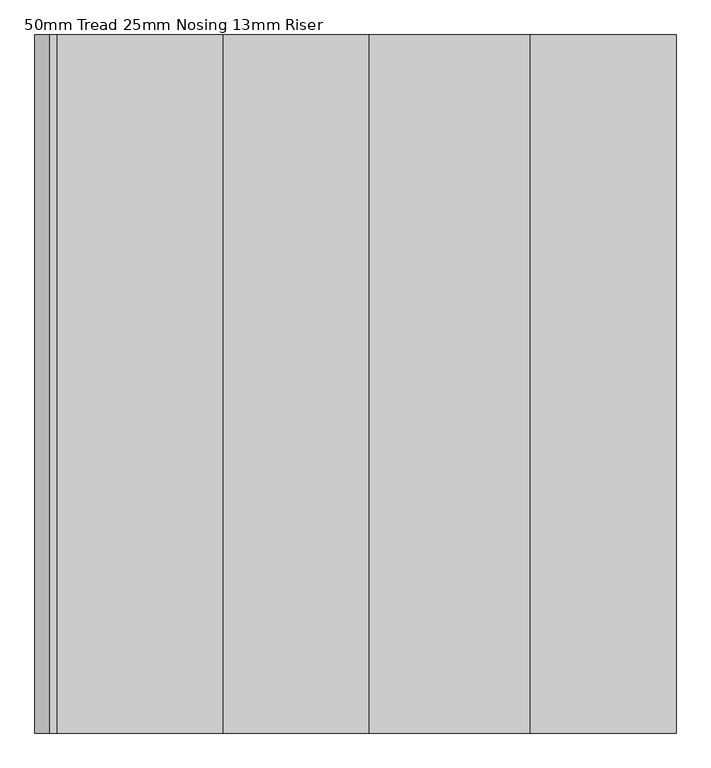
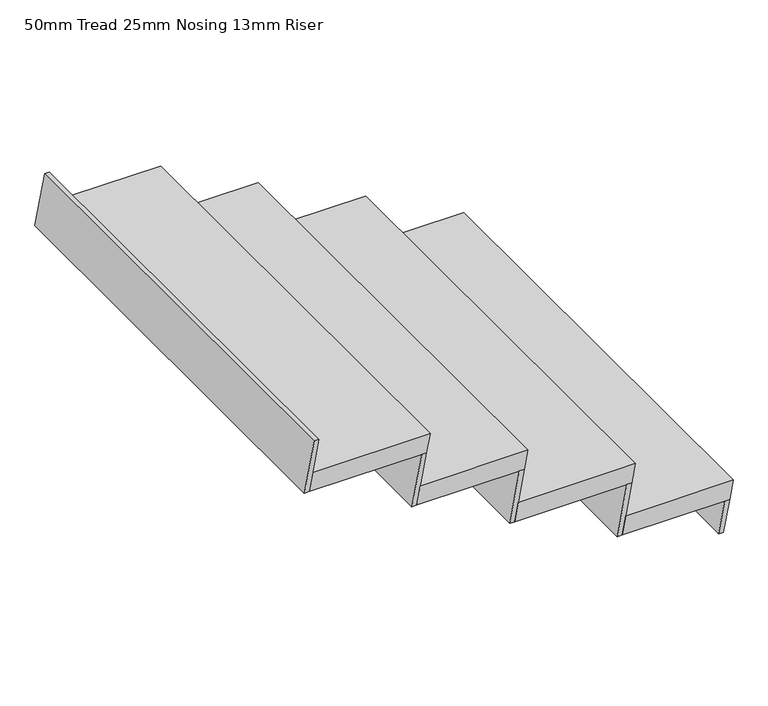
"""IFC4 building model written with IfcOpenShell, lengths in millimetres: stair flight geometry, 50mm Tread 25mm Nosing 13mm Riser."""

from ifc_helpers import new_model, si_unit, frame, origin, place, context, project, spatial, polyline, outline, extrude, source, transform, mapped, element, save


def stair_flight_50mm_tread_25mm_nosing_13mm_riser_ce5ae0f6(model_context):
    return source(origin(), model_context, "Body", "SweptSolid", [
        extrude(outline(polyline([(-728.98, 2667.6), (-728.98, 2388.6), (-778.98, 2379.3146041), (-778.98, 2658.3146041), (-728.98, 2667.6)])), frame((0.0, -2540.0, 0.0), z_axis=(0.0, 1.0, 0.0), x_axis=(0.0, 0.0, 1.0)), (0.0, 0.0, 1.0), 1212.85),
        extrude(outline(polyline([(-778.98, 2658.3146041), (-778.98, 2645.6008847), (-863.6, 2629.8862806), (-863.6, 2642.6), (-778.98, 2658.3146041)])), frame((0.0, -2540.0, 0.0), z_axis=(0.0, 1.0, 0.0), x_axis=(0.0, 0.0, 1.0)), (0.0, 0.0, 1.0), 1212.85),
        extrude(outline(polyline([(-644.36, 2404.3146041), (-644.36, 2391.6008847), (-778.98, 2366.6008847), (-778.98, 2379.3146041), (-644.36, 2404.3146041)])), frame((0.0, -2540.0, 0.0), z_axis=(0.0, 1.0, 0.0), x_axis=(0.0, 0.0, 1.0)), (0.0, 0.0, 1.0), 1212.85),
        extrude(outline(polyline([(-594.36, 2413.6), (-594.36, 2109.2), (-644.36, 2099.9146041), (-644.36, 2404.3146041), (-594.36, 2413.6)])), frame((0.0, -2540.0, 0.0), z_axis=(0.0, 1.0, 0.0), x_axis=(0.0, 0.0, 1.0)), (0.0, 0.0, 1.0), 1212.85),
        extrude(outline(polyline([(-509.74, 2124.9146041), (-509.74, 2112.2008847), (-644.36, 2087.2008847), (-644.36, 2099.9146041), (-509.74, 2124.9146041)])), frame((0.0, -2540.0, 0.0), z_axis=(0.0, 1.0, 0.0), x_axis=(0.0, 0.0, 1.0)), (0.0, 0.0, 1.0), 1212.85),
        extrude(outline(polyline([(-459.74, 2134.2), (-459.74, 1855.2), (-509.74, 1845.9146041), (-509.74, 2124.9146041), (-459.74, 2134.2)])), frame((0.0, -2540.0, 0.0), z_axis=(0.0, 1.0, 0.0), x_axis=(0.0, 0.0, 1.0)), (0.0, 0.0, 1.0), 1212.85),
        extrude(outline(polyline([(-375.12, 1870.9146041), (-375.12, 1858.2008847), (-509.74, 1833.2008847), (-509.74, 1845.9146041), (-375.12, 1870.9146041)])), frame((0.0, -2540.0, 0.0), z_axis=(0.0, 1.0, 0.0), x_axis=(0.0, 0.0, 1.0)), (0.0, 0.0, 1.0), 1212.85),
        extrude(outline(polyline([(-240.5, 1591.5146041), (-240.5, 1578.8008847), (-375.12, 1553.8008847), (-375.12, 1566.5146041), (-240.5, 1591.5146041)])), frame((0.0, -2540.0, 0.0), z_axis=(0.0, 1.0, 0.0), x_axis=(0.0, 0.0, 1.0)), (0.0, 0.0, 1.0), 1212.85),
        extrude(outline(polyline([(-325.12, 1880.2), (-325.12, 1575.8), (-375.12, 1566.5146041), (-375.12, 1870.9146041), (-325.12, 1880.2)])), frame((0.0, -2540.0, 0.0), z_axis=(0.0, 1.0, 0.0), x_axis=(0.0, 0.0, 1.0)), (0.0, 0.0, 1.0), 1212.85),
    ])


if __name__ == "__main__":
    model = new_model("IFC4")
    model_context = context("Model", 3, world=origin())
    ifc_project = project(units=[si_unit("LENGTHUNIT", "METRE", prefix="MILLI")], contexts=[model_context])
    site = spatial("IfcSite", under=ifc_project)
    building = spatial("IfcBuilding", under=site)
    placement = place(None, origin())
    stair_flight_50mm_tread_25mm_nosing_13mm_riser_shape = stair_flight_50mm_tread_25mm_nosing_13mm_riser_ce5ae0f6(model_context)
    element("IfcStairFlight", 1, ObjectType="50mm Tread 25mm Nosing 13mm Riser", at=placement, inside=building, context=model_context, shape_type="MappedRepresentation", body=[
        mapped(stair_flight_50mm_tread_25mm_nosing_13mm_riser_shape, transform((0.0, 0.0, 0.0), x_axis=(1.0, 0.0, 0.0), y_axis=(0.0, 1.0, 0.0), z_axis=(0.0, 0.0, 1.0))),
    ])
    save(model, "model.ifc")
